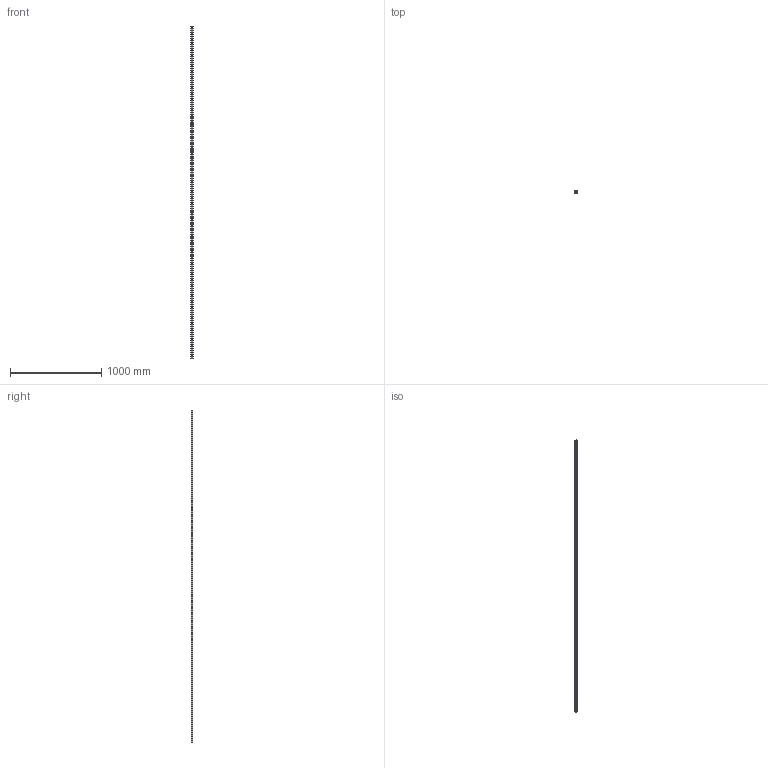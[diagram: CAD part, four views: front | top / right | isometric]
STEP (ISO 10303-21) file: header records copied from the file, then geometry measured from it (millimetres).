
FILE_DESCRIPTION (( 'STEP AP203' ), '1' );
FILE_NAME ('L1016.BRF25-3640.step', '2019-06-13T08:47:44', ( '' ), ( '' ), 'SwSTEP 2.0', 'SolidWorks 2017', '' );
FILE_SCHEMA (( 'CONFIG_CONTROL_DESIGN' ));
Length unit declared in the file: millimetre
Products named in the file (1): L1016.BRF25-3640
Bounding box: 23 x 19.2 x 3640 mm (x, y, z)
Volume: 1389798.6 mm3; surface area: 334766.2 mm2
Topology: 1 solids, 1 shells, 453 faces, 1048 edges, 597 vertices
Faces by surface type: cylinder 248, cone 122, plane 83
Entity records: 12125 total; most frequent: DIRECTION 2330, CARTESIAN_POINT 1977, ORIENTED_EDGE 1852, AXIS2_PLACEMENT_3D 950, EDGE_CURVE 926, VERTEX_POINT 597, EDGE_LOOP 575, CIRCLE 496
